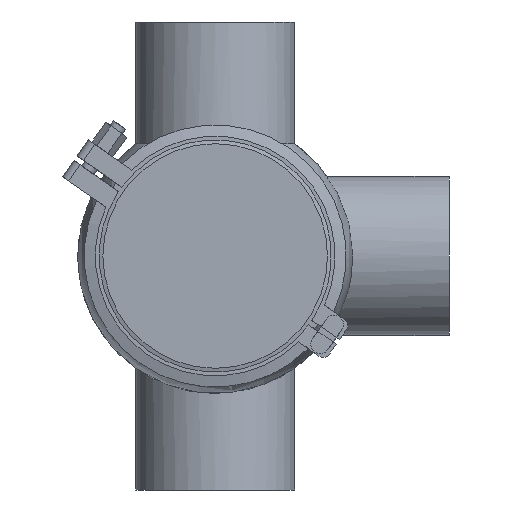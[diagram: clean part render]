
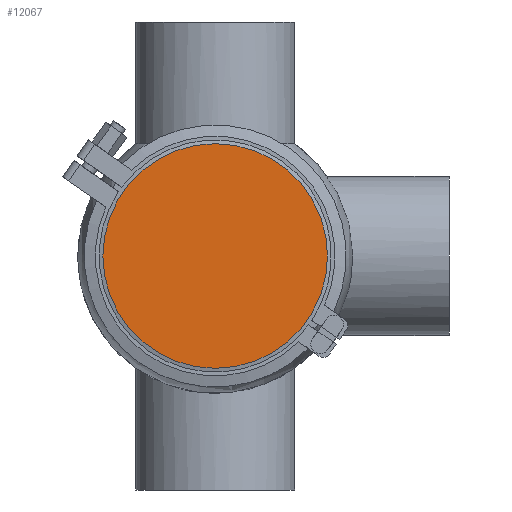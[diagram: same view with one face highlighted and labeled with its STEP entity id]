
A CAD part, front view. The second image highlights one B-rep face of the part: STEP entity #12067.
In plain terms, the highlighted planar face has unit normal (0, -1, 0).
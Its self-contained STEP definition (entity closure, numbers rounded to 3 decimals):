
#1753 = EDGE_LOOP ( 'NONE', ( #18754 ) ) ;
#2639 = AXIS2_PLACEMENT_3D ( 'NONE', #11986, #8275, #10369 ) ;
#2889 = FACE_OUTER_BOUND ( 'NONE', #1753, .T. ) ;
#2993 = CARTESIAN_POINT ( 'NONE',  ( -60., 0., 0. ) ) ;
#7879 = AXIS2_PLACEMENT_3D ( 'NONE', #2993, #12628, #16233 ) ;
#8275 = DIRECTION ( 'NONE',  ( 0., 1., 0. ) ) ;
#9604 = PLANE ( 'NONE',  #7879 ) ;
#9757 = VERTEX_POINT ( 'NONE', #11610 ) ;
#10369 = DIRECTION ( 'NONE',  ( 0., 0., 1. ) ) ;
#11610 = CARTESIAN_POINT ( 'NONE',  ( 0., 0., 60. ) ) ;
#11986 = CARTESIAN_POINT ( 'NONE',  ( 0., 0., 0. ) ) ;
#12067 = ADVANCED_FACE ( 'NONE', ( #2889 ), #9604, .T. ) ;
#12628 = DIRECTION ( 'NONE',  ( 0., -1., 0. ) ) ;
#12789 = EDGE_CURVE ( 'NONE', #9757, #9757, #15562, .T. ) ;
#15562 = CIRCLE ( 'NONE', #2639, 60. ) ;
#16233 = DIRECTION ( 'NONE',  ( 0., 0., -1. ) ) ;
#18754 = ORIENTED_EDGE ( 'NONE', *, *, #12789, .F. ) ;
